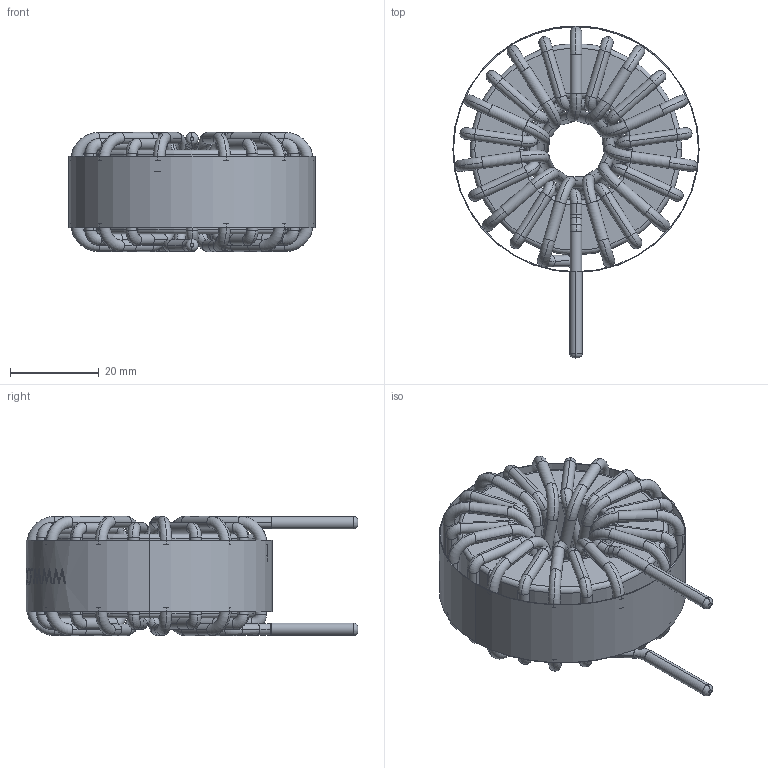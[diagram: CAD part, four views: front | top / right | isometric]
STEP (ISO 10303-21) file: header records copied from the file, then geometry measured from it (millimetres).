
FILE_DESCRIPTION (( 'STEP AP214' ), '1' );
FILE_NAME ('HF467-600M-40AV.step', '2021-03-04T09:52:32', ( '' ), ( '' ), 'SwSTEP 2.0', 'SolidWorks 2015', '' );
FILE_SCHEMA (( 'AUTOMOTIVE_DESIGN' ));
Length unit declared in the file: millimetre
Products named in the file (4): WINDING; HF467-600M-40AV; CORE; WRAPPER
Assembly tree (3 placements, depth 2):
  HF467-600M-40AV
    CORE
    WINDING
    WRAPPER
Bounding box: 55.49 x 74.76 x 26.84 mm (x, y, z)
Volume: 36061.8 mm3; surface area: 28262.7 mm2
Topology: 23 solids, 23 shells, 730 faces, 1924 edges, 1260 vertices
Faces by surface type: cylinder 298, torus 234, bspline 103, plane 95
Entity records: 34919 total; most frequent: CARTESIAN_POINT 14635, DIRECTION 4073, ORIENTED_EDGE 3848, EDGE_CURVE 1924, AXIS2_PLACEMENT_3D 1884, VERTEX_POINT 1260, CIRCLE 1251, EDGE_LOOP 764
